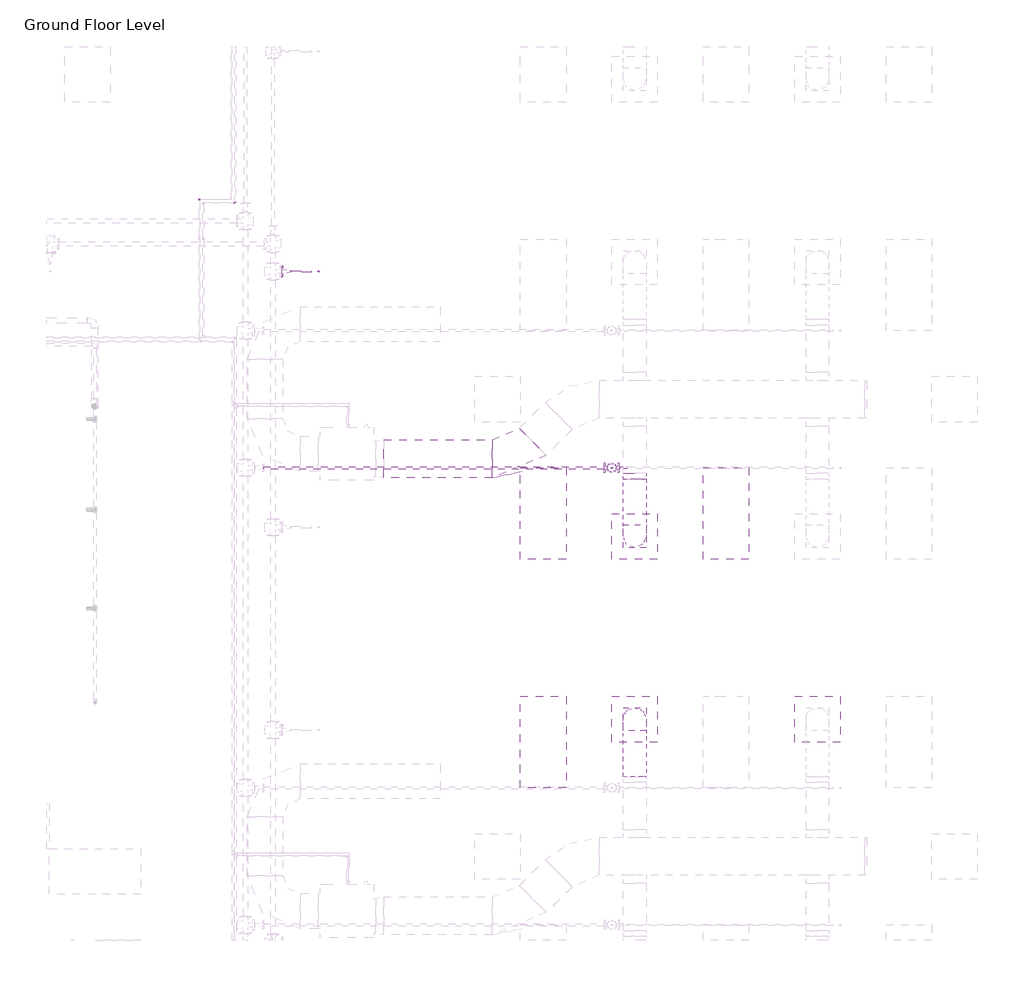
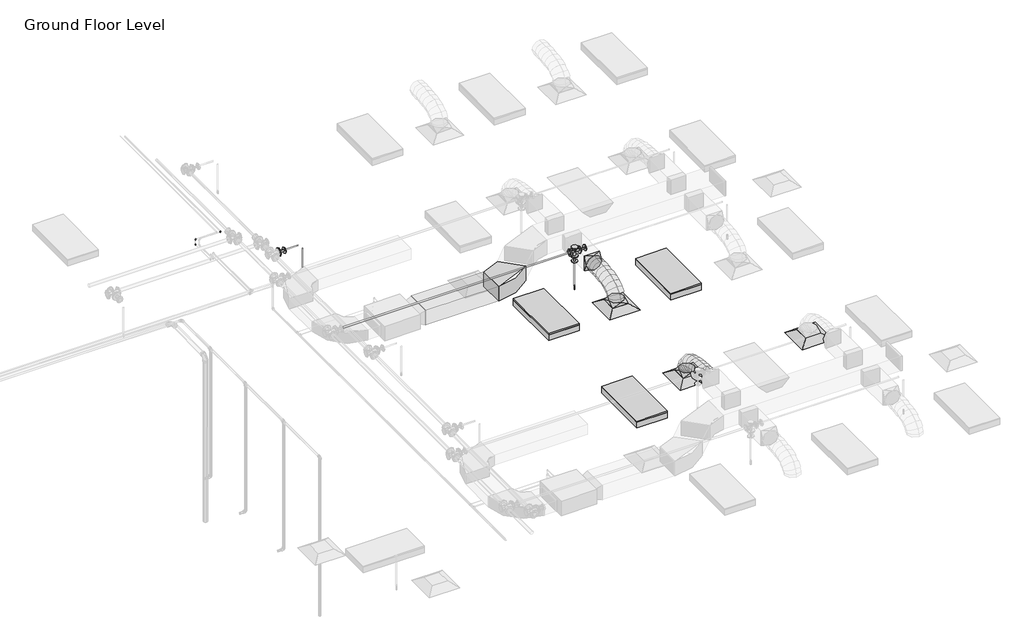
# One storey, part 67 of 72: 7 pipe fittings, 4 duct fittings, 4 pipe segments, 3 air terminals, 3 duct segments, 3 light fixtures, 2 fire suppression terminals.
"""IFC4 building model written with IfcOpenShell, lengths in millimetres."""

from ifc_helpers import new_model, si_unit, point, frame, frame_2d, origin, place, context, project, spatial, polyline, circle_curve, ellipse_curve, trimmed, segment, composite_curve, outline, extrude, transform, mapped, element, save
from ifc_brep_helpers import plane_surface, cylinder_surface, advanced_brep
from components import m_return_diffuser_600_x_600_face_300_x_300_connection_ff221211, m_rectangular_elbow_radius_1_5_w_acc56c25, m_rectangular_to_round_transition_angle_45_degree_641efff0, m_sprinkler_dry_pendent_hosted_15_mm_dry_pendent_9bda8e11, m_sprinkler_pendent_15_mm_pendent_06fcbd8e, m_troffer_light_parabolic_rectangular1_0600x1200mm_4_lamp_86473d4a, m_elbow_generic_standard_a088f956, m_elbow_generic_standard_2a704253, m_reducer_flanged_cs_class_150_standard_ccf252ad, m_reducer_flanged_cs_class_150_standard_9dfe9ec5, m_tee_round_base_flanged_cs_class_150_standard_7e5987a1

model = new_model("IFC4")

# Units and contexts
model_context = context("Model", 3, world=origin())
ifc_project = project(units=[si_unit("LENGTHUNIT", "METRE", prefix="MILLI")], contexts=[model_context])

# Site, building, storey
site = spatial("IfcSite", under=ifc_project)
building = spatial("IfcBuilding", under=site)
storey = spatial("IfcBuildingStorey", under=building, Name="Ground Floor Level", Elevation=900.0)

# Air terminals
placement = place(None, origin())
m_return_diffuser_600_x_600_face_300_x_300_connection_shape = m_return_diffuser_600_x_600_face_300_x_300_connection_ff221211(model_context)
element("IfcAirTerminal", 1, ObjectType="M_Supply Diffuser : 600 x 600 Face 300 x 300 Connection", at=placement, inside=storey, context=model_context, shape_type="MappedRepresentation", body=[
    mapped(m_return_diffuser_600_x_600_face_300_x_300_connection_shape, transform((10742.7672395, 10935.2153534, 3650.0), x_axis=(1.0, 0.0, 0.0), y_axis=(0.0, 1.0, 0.0), z_axis=(0.0, 0.0, 1.0))),
])
element("IfcAirTerminal", 2, ObjectType="M_Supply Diffuser : 600 x 600 Face 300 x 300 Connection", at=placement, inside=storey, context=model_context, shape_type="MappedRepresentation", body=[
    mapped(m_return_diffuser_600_x_600_face_300_x_300_connection_shape, transform((10742.7672395, 8535.2153534, 3650.0), x_axis=(1.0, 0.0, 0.0), y_axis=(0.0, 1.0, 0.0), z_axis=(0.0, 0.0, 1.0))),
])
element("IfcAirTerminal", 3, ObjectType="M_Supply Diffuser : 600 x 600 Face 300 x 300 Connection", at=placement, inside=storey, context=model_context, shape_type="MappedRepresentation", body=[
    mapped(m_return_diffuser_600_x_600_face_300_x_300_connection_shape, transform((13142.7672395, 8535.2153534, 3650.0), x_axis=(1.0, 0.0, 0.0), y_axis=(0.0, 1.0, 0.0), z_axis=(0.0, 0.0, 1.0))),
])

# Duct fittings
m_rectangular_elbow_radius_1_5_w_shape = m_rectangular_elbow_radius_1_5_w_acc56c25(model_context)
element("IfcDuctFitting", 4, ObjectType="M_Rectangular Elbow - Radius : 1.5 W", at=placement, inside=storey, context=model_context, shape_type="MappedRepresentation", body=[
    mapped(m_rectangular_elbow_radius_1_5_w_shape, transform((9187.6927358, 11956.1779527, 4100.0047224), x_axis=(0.9999999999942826, 0.0, -3.3815582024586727e-06), y_axis=(-9.063610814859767e-12, 0.9999999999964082, -2.680306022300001e-06), z_axis=(3.3815582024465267e-06, 2.6803060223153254e-06, 0.9999999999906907))),
])
m_rectangular_to_round_transition_angle_45_degree_shape = m_rectangular_to_round_transition_angle_45_degree_641efff0(model_context)
element("IfcDuctFitting", 5, ObjectType="M_Rectangular to Round Transition - Angle : 45 Degree", at=placement, inside=storey, context=model_context, shape_type="MappedRepresentation", body=[
    mapped(m_rectangular_to_round_transition_angle_45_degree_shape, transform((10742.7672395, 8535.2153534, 3751.6), x_axis=(0.0, 0.0, 1.0), y_axis=(-1.0, 0.0, 0.0), z_axis=(0.0, -1.0, 0.0))),
])
element("IfcDuctFitting", 6, ObjectType="M_Rectangular to Round Transition - Angle : 45 Degree", at=placement, inside=storey, context=model_context, shape_type="MappedRepresentation", body=[
    mapped(m_rectangular_to_round_transition_angle_45_degree_shape, transform((10742.7672395, 10935.2153534, 3751.6), x_axis=(0.0, 0.0, 1.0), y_axis=(-1.0, 0.0, 0.0), z_axis=(0.0, -1.0, 0.0))),
])
element("IfcDuctFitting", 7, ObjectType="M_Rectangular to Round Transition - Angle : 45 Degree", at=placement, inside=storey, context=model_context, shape_type="MappedRepresentation", body=[
    mapped(m_rectangular_to_round_transition_angle_45_degree_shape, transform((10742.7672395, 11762.5512847, 4100.0), x_axis=(0.0, -1.0, 0.0), y_axis=(1.0, 0.0, 0.0), z_axis=(0.0, 0.0, 1.0))),
])

# Duct segments
element("IfcDuctSegment", 8, ObjectType="Flex - Round", at=placement, inside=storey, context=model_context, shape_type="AdvancedBrep", body=[
    advanced_brep(
    [(10892.7672395, 8535.2153534, 3826.6), (10742.7672395, 8385.2153534, 3826.6), (10592.7672395, 8535.2153534, 3826.6), (10742.7672395, 8685.2153534, 3826.6), (10892.7672395, 8535.2153534, 3857.9377114), (10742.7672395, 8385.2153534, 3832.2944892), (10592.7672395, 8535.2153534, 3857.9377114), (10742.7672395, 8685.2153534, 3883.5809337), (10892.7672395, 8518.1994208, 3906.2505728), (10742.7672395, 8384.4614419, 3834.435049), (10592.7672395, 8518.1994208, 3906.2505728), (10742.7672395, 8651.9373998, 3978.0660967), (10892.7672395, 8471.0155405, 3968.7113131), (10742.7672395, 8366.8096412, 3857.8020236), (10592.7672395, 8471.0155405, 3968.7113131), (10742.7672395, 8575.2214397, 4079.6206026), (10892.7672395, 8399.4595883, 4016.0700639), (10742.7672395, 8330.5255327, 3881.8163788), (10592.7672395, 8399.4595883, 4016.0700639), (10742.7672395, 8468.3936439, 4150.3237489), (10892.7672395, 8309.3274403, 4050.4146682), (10742.7672395, 8265.7666771, 3906.4925606), (10592.7672395, 8309.3274403, 4050.4146682), (10742.7672395, 8352.8882035, 4194.3367758), (10892.7672395, 8206.4149725, 4073.8329691), (10742.7672395, 8179.8540485, 3926.0424542), (10592.7672395, 8206.4149725, 4073.8329691), (10742.7672395, 8232.9758965, 4221.6234841), (10892.7672395, 8096.5180607, 4088.4128097), (10742.7672395, 8081.3671584, 3939.1085462), (10592.7672395, 8096.5180607, 4088.4128097), (10742.7672395, 8111.6689631, 4237.7170733), (10892.7672395, 7985.4325811, 4096.242033), (10742.7672395, 7977.9272529, 3946.398915), (10592.7672395, 7985.4325811, 4096.242033), (10742.7672395, 7992.9379093, 4246.085151), (10892.7672395, 7878.9544096, 4099.4084821), (10742.7672395, 7876.2629165, 3949.4222102), (10592.7672395, 7878.9544096, 4099.4084821), (10742.7672395, 7881.6459027, 4249.394754), (10892.7672395, 7782.8794221, 4100.0), (10742.7672395, 7783.8029299, 4249.9971571), (10592.7672395, 7782.8794221, 4100.0), (10742.7672395, 7781.9559143, 3950.0028429)],
    [
        (0, 1, circle_curve(frame((10742.7672395, 8535.2153534, 3826.6), z_axis=(0.0, 0.0, -1.0), x_axis=(1.0, 0.0, 0.0)), 150.0)),
        (1, 2, circle_curve(frame((10742.7672395, 8535.2153534, 3826.6), z_axis=(0.0, 0.0, -1.0), x_axis=(1.0, 0.0, 0.0)), 150.0)),
        (2, 3, circle_curve(frame((10742.7672395, 8535.2153534, 3826.6), z_axis=(0.0, 0.0, -1.0), x_axis=(1.0, 0.0, 0.0)), 150.0)),
        (3, 0, circle_curve(frame((10742.7672395, 8535.2153534, 3826.6), z_axis=(0.0, 0.0, -1.0), x_axis=(1.0, 0.0, 0.0)), 150.0)),
        (0, 4),
        (4, 5, ellipse_curve(frame((10742.7672395, 8535.2153534, 3857.9377114), z_axis=(0.0, 0.16851014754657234, -0.9856999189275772), x_axis=(0.0, -0.9856999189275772, -0.1685101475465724)), 152.176131, 150.0)),
        (5, 1),
        (5, 6, ellipse_curve(frame((10742.7672395, 8535.2153534, 3857.9377114), z_axis=(0.0, 0.16851014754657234, -0.9856999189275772), x_axis=(0.0, -0.9856999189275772, -0.1685101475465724)), 152.176131, 150.0)),
        (6, 2),
        (6, 7, ellipse_curve(frame((10742.7672395, 8535.2153534, 3857.9377114), z_axis=(0.0, 0.16851014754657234, -0.9856999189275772), x_axis=(0.0, -0.9856999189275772, -0.1685101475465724)), 152.176131, 150.0)),
        (7, 3),
        (7, 4, ellipse_curve(frame((10742.7672395, 8535.2153534, 3857.9377114), z_axis=(0.0, 0.16851014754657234, -0.9856999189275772), x_axis=(0.0, -0.9856999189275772, -0.1685101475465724)), 152.176131, 150.0)),
        (4, 8),
        (8, 9, ellipse_curve(frame((10742.7672395, 8518.1994208, 3906.2505728), z_axis=(0.0, 0.4730922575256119, -0.8810128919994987), x_axis=(0.0, -0.8810128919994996, -0.47309225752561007)), 151.8002519, 150.0)),
        (9, 5),
        (9, 10, ellipse_curve(frame((10742.7672395, 8518.1994208, 3906.2505728), z_axis=(0.0, 0.4730922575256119, -0.8810128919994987), x_axis=(0.0, -0.8810128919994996, -0.47309225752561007)), 151.8002519, 150.0)),
        (10, 6),
        (10, 11, ellipse_curve(frame((10742.7672395, 8518.1994208, 3906.2505728), z_axis=(0.0, 0.4730922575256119, -0.8810128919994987), x_axis=(0.0, -0.8810128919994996, -0.47309225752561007)), 151.8002519, 150.0)),
        (11, 7),
        (11, 8, ellipse_curve(frame((10742.7672395, 8518.1994208, 3906.2505728), z_axis=(0.0, 0.4730922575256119, -0.8810128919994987), x_axis=(0.0, -0.8810128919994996, -0.47309225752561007)), 151.8002519, 150.0)),
        (8, 12),
        (12, 13, ellipse_curve(frame((10742.7672395, 8471.0155405, 3968.7113131), z_axis=(0.0, 0.7287877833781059, -0.6847396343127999), x_axis=(0.0, -0.6847396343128, -0.7287877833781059)), 152.1832446, 150.0)),
        (13, 9),
        (13, 14, ellipse_curve(frame((10742.7672395, 8471.0155405, 3968.7113131), z_axis=(0.0, 0.7287877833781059, -0.6847396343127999), x_axis=(0.0, -0.6847396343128, -0.7287877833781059)), 152.1832446, 150.0)),
        (14, 10),
        (14, 15, ellipse_curve(frame((10742.7672395, 8471.0155405, 3968.7113131), z_axis=(0.0, 0.7287877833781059, -0.6847396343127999), x_axis=(0.0, -0.6847396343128, -0.7287877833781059)), 152.1832446, 150.0)),
        (15, 11),
        (15, 12, ellipse_curve(frame((10742.7672395, 8471.0155405, 3968.7113131), z_axis=(0.0, 0.7287877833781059, -0.6847396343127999), x_axis=(0.0, -0.6847396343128, -0.7287877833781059)), 152.1832446, 150.0)),
        (12, 16),
        (16, 17, ellipse_curve(frame((10742.7672395, 8399.4595883, 4016.0700639), z_axis=(0.0, 0.8895859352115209, -0.4567678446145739), x_axis=(0.0, -0.4567678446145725, -0.8895859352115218)), 150.91705, 150.0)),
        (17, 13),
        (17, 18, ellipse_curve(frame((10742.7672395, 8399.4595883, 4016.0700639), z_axis=(0.0, 0.8895859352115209, -0.4567678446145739), x_axis=(0.0, -0.4567678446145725, -0.8895859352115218)), 150.91705, 150.0)),
        (18, 14),
        (18, 19, ellipse_curve(frame((10742.7672395, 8399.4595883, 4016.0700639), z_axis=(0.0, 0.8895859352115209, -0.4567678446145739), x_axis=(0.0, -0.4567678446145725, -0.8895859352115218)), 150.91705, 150.0)),
        (19, 15),
        (19, 16, ellipse_curve(frame((10742.7672395, 8399.4595883, 4016.0700639), z_axis=(0.0, 0.8895859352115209, -0.4567678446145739), x_axis=(0.0, -0.4567678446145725, -0.8895859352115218)), 150.91705, 150.0)),
        (16, 20),
        (20, 21, ellipse_curve(frame((10742.7672395, 8309.3274403, 4050.4146682), z_axis=(0.0, 0.9571203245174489, -0.2896906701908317), x_axis=(0.0, -0.2896906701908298, -0.9571203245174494)), 150.369921, 150.0)),
        (21, 17),
        (21, 22, ellipse_curve(frame((10742.7672395, 8309.3274403, 4050.4146682), z_axis=(0.0, 0.9571203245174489, -0.2896906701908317), x_axis=(0.0, -0.2896906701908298, -0.9571203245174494)), 150.369921, 150.0)),
        (22, 18),
        (22, 23, ellipse_curve(frame((10742.7672395, 8309.3274403, 4050.4146682), z_axis=(0.0, 0.9571203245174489, -0.2896906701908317), x_axis=(0.0, -0.2896906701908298, -0.9571203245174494)), 150.369921, 150.0)),
        (23, 19),
        (23, 20, ellipse_curve(frame((10742.7672395, 8309.3274403, 4050.4146682), z_axis=(0.0, 0.9571203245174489, -0.2896906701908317), x_axis=(0.0, -0.2896906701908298, -0.9571203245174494)), 150.369921, 150.0)),
        (20, 24),
        (24, 25, ellipse_curve(frame((10742.7672395, 8206.4149725, 4073.8329691), z_axis=(0.0, 0.9842313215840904, -0.1768861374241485), x_axis=(0.0, -0.17688613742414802, -0.9842313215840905)), 150.1583131, 150.0)),
        (25, 21),
        (25, 26, ellipse_curve(frame((10742.7672395, 8206.4149725, 4073.8329691), z_axis=(0.0, 0.9842313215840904, -0.1768861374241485), x_axis=(0.0, -0.17688613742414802, -0.9842313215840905)), 150.1583131, 150.0)),
        (26, 22),
        (26, 27, ellipse_curve(frame((10742.7672395, 8206.4149725, 4073.8329691), z_axis=(0.0, 0.9842313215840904, -0.1768861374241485), x_axis=(0.0, -0.17688613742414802, -0.9842313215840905)), 150.1583131, 150.0)),
        (27, 23),
        (27, 24, ellipse_curve(frame((10742.7672395, 8206.4149725, 4073.8329691), z_axis=(0.0, 0.9842313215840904, -0.1768861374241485), x_axis=(0.0, -0.17688613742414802, -0.9842313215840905)), 150.1583131, 150.0)),
        (24, 28),
        (28, 29, ellipse_curve(frame((10742.7672395, 8096.5180607, 4088.4128097), z_axis=(0.0, 0.9948906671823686, -0.10095821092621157), x_axis=(0.0, -0.100958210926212, -0.9948906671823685)), 150.0710264, 150.0)),
        (29, 25),
        (29, 30, ellipse_curve(frame((10742.7672395, 8096.5180607, 4088.4128097), z_axis=(0.0, 0.9948906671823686, -0.10095821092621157), x_axis=(0.0, -0.100958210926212, -0.9948906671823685)), 150.0710264, 150.0)),
        (30, 26),
        (30, 31, ellipse_curve(frame((10742.7672395, 8096.5180607, 4088.4128097), z_axis=(0.0, 0.9948906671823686, -0.10095821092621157), x_axis=(0.0, -0.100958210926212, -0.9948906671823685)), 150.0710264, 150.0)),
        (31, 27),
        (31, 28, ellipse_curve(frame((10742.7672395, 8096.5180607, 4088.4128097), z_axis=(0.0, 0.9948906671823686, -0.10095821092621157), x_axis=(0.0, -0.100958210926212, -0.9948906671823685)), 150.0710264, 150.0)),
        (28, 32),
        (32, 33, ellipse_curve(frame((10742.7672395, 7985.4325811, 4096.242033), z_axis=(0.0, 0.9987479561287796, -0.05002519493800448), x_axis=(0.0, -0.050025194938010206, -0.9987479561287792)), 150.0309634, 150.0)),
        (33, 29),
        (33, 34, ellipse_curve(frame((10742.7672395, 7985.4325811, 4096.242033), z_axis=(0.0, 0.9987479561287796, -0.05002519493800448), x_axis=(0.0, -0.050025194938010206, -0.9987479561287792)), 150.0309634, 150.0)),
        (34, 30),
        (34, 35, ellipse_curve(frame((10742.7672395, 7985.4325811, 4096.242033), z_axis=(0.0, 0.9987479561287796, -0.05002519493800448), x_axis=(0.0, -0.050025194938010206, -0.9987479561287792)), 150.0309634, 150.0)),
        (35, 31),
        (35, 32, ellipse_curve(frame((10742.7672395, 7985.4325811, 4096.242033), z_axis=(0.0, 0.9987479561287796, -0.05002519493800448), x_axis=(0.0, -0.050025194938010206, -0.9987479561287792)), 150.0309634, 150.0)),
        (32, 36),
        (36, 37, ellipse_curve(frame((10742.7672395, 7878.9544096, 4099.4084821), z_axis=(0.0, 0.9998390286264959, -0.017942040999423), x_axis=(0.0, -0.01794204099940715, -0.9998390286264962)), 150.0104193, 150.0)),
        (37, 33),
        (37, 38, ellipse_curve(frame((10742.7672395, 7878.9544096, 4099.4084821), z_axis=(0.0, 0.9998390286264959, -0.017942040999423), x_axis=(0.0, -0.01794204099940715, -0.9998390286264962)), 150.0104193, 150.0)),
        (38, 34),
        (38, 39, ellipse_curve(frame((10742.7672395, 7878.9544096, 4099.4084821), z_axis=(0.0, 0.9998390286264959, -0.017942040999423), x_axis=(0.0, -0.01794204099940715, -0.9998390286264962)), 150.0104193, 150.0)),
        (39, 35),
        (39, 36, ellipse_curve(frame((10742.7672395, 7878.9544096, 4099.4084821), z_axis=(0.0, 0.9998390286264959, -0.017942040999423), x_axis=(0.0, -0.01794204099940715, -0.9998390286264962)), 150.0104193, 150.0)),
        (40, 41, circle_curve(frame((10742.7672395, 7782.8794221, 4100.0), z_axis=(0.0, -0.9999810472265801, 0.006156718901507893), x_axis=(1.0, 0.0, 0.0)), 150.0)),
        (41, 42, circle_curve(frame((10742.7672395, 7782.8794221, 4100.0), z_axis=(0.0, -0.9999810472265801, 0.006156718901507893), x_axis=(1.0, 0.0, 0.0)), 150.0)),
        (42, 43, circle_curve(frame((10742.7672395, 7782.8794221, 4100.0), z_axis=(0.0, -0.9999810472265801, 0.006156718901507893), x_axis=(1.0, 0.0, 0.0)), 150.0)),
        (43, 40, circle_curve(frame((10742.7672395, 7782.8794221, 4100.0), z_axis=(0.0, -0.9999810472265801, 0.006156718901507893), x_axis=(1.0, 0.0, 0.0)), 150.0)),
        (36, 40),
        (43, 37),
        (42, 38),
        (41, 39),
    ],
    [
        plane_surface(frame((10742.7672395, 8385.2153534, 3826.6), z_axis=(0.0, 0.0, -1.0), x_axis=(1.0, 0.0, 0.0))),
        cylinder_surface(frame((10742.7672395, 8535.2153534, 3826.6), z_axis=(0.0, 0.0, -1.0), x_axis=(1.0, 0.0, 0.0)), 150.0),
        cylinder_surface(frame((10742.7672395, 8535.2153534, 3857.9377114), z_axis=(0.0, 0.3322008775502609, -0.9432086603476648), x_axis=(1.0, 0.0, 0.0)), 150.0),
        cylinder_surface(frame((10742.7672395, 8518.1994208, 3906.2505728), z_axis=(0.0, 0.6027625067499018, -0.7979206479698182), x_axis=(1.0, 0.0, 0.0)), 150.0),
        cylinder_surface(frame((10742.7672395, 8471.0155405, 3968.7113131), z_axis=(0.0, 0.8339024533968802, -0.5519118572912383), x_axis=(1.0, 0.0, 0.0)), 150.0),
        cylinder_surface(frame((10742.7672395, 8399.4595883, 4016.0700639), z_axis=(0.0, 0.934458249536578, -0.35607271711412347), x_axis=(1.0, 0.0, 0.0)), 150.0),
        cylinder_surface(frame((10742.7672395, 8309.3274403, 4050.4146682), z_axis=(0.0, 0.9750732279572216, -0.2218833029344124), x_axis=(1.0, 0.0, 0.0)), 150.0),
        cylinder_surface(frame((10742.7672395, 8206.4149725, 4073.8329691), z_axis=(0.0, 0.9913140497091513, -0.13151598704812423), x_axis=(1.0, 0.0, 0.0)), 150.0),
        cylinder_surface(frame((10742.7672395, 8096.5180607, 4088.4128097), z_axis=(0.0, 0.9975255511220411, -0.07030487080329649), x_axis=(1.0, 0.0, 0.0)), 150.0),
        cylinder_surface(frame((10742.7672395, 7985.4325811, 4096.242033), z_axis=(0.0, 0.9995581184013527, -0.029724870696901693), x_axis=(1.0, 0.0, 0.0)), 150.0),
        plane_surface(frame((10742.7672395, 7781.9559143, 3950.0028429), z_axis=(0.0, -0.9999810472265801, 0.0061567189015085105), x_axis=(1.0, 0.0, 0.0))),
        cylinder_surface(frame((10742.7672395, 7878.9544096, 4099.4084821), z_axis=(0.0, 0.9999810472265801, -0.006156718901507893), x_axis=(1.0, 0.0, 0.0)), 150.0),
    ],
    [
        (0, [[1, 2, 3, 4]]),
        (1, [[-1, 5, 6, 7]]),
        (1, [[-2, -7, 8, 9]]),
        (1, [[-3, -9, 10, 11]]),
        (1, [[-4, -11, 12, -5]]),
        (2, [[-6, 13, 14, 15]]),
        (2, [[-8, -15, 16, 17]]),
        (2, [[-10, -17, 18, 19]]),
        (2, [[-12, -19, 20, -13]]),
        (3, [[-14, 21, 22, 23]]),
        (3, [[-16, -23, 24, 25]]),
        (3, [[-18, -25, 26, 27]]),
        (3, [[-20, -27, 28, -21]]),
        (4, [[-22, 29, 30, 31]]),
        (4, [[-24, -31, 32, 33]]),
        (4, [[-26, -33, 34, 35]]),
        (4, [[-28, -35, 36, -29]]),
        (5, [[-30, 37, 38, 39]]),
        (5, [[-32, -39, 40, 41]]),
        (5, [[-34, -41, 42, 43]]),
        (5, [[-36, -43, 44, -37]]),
        (6, [[-38, 45, 46, 47]]),
        (6, [[-40, -47, 48, 49]]),
        (6, [[-42, -49, 50, 51]]),
        (6, [[-44, -51, 52, -45]]),
        (7, [[-46, 53, 54, 55]]),
        (7, [[-48, -55, 56, 57]]),
        (7, [[-50, -57, 58, 59]]),
        (7, [[-52, -59, 60, -53]]),
        (8, [[-54, 61, 62, 63]]),
        (8, [[-56, -63, 64, 65]]),
        (8, [[-58, -65, 66, 67]]),
        (8, [[-60, -67, 68, -61]]),
        (9, [[-62, 69, 70, 71]]),
        (9, [[-64, -71, 72, 73]]),
        (9, [[-66, -73, 74, 75]]),
        (9, [[-68, -75, 76, -69]]),
        (10, [[77, 78, 79, 80]]),
        (11, [[-70, 81, -80, 82]]),
        (11, [[-72, -82, -79, 83]]),
        (11, [[-74, -83, -78, 84]]),
        (11, [[-76, -84, -77, -81]]),
    ],
),
])
element("IfcDuctSegment", 9, ObjectType="Flex - Round", at=placement, inside=storey, context=model_context, shape_type="AdvancedBrep", body=[
    advanced_brep(
    [(10892.7672395, 10935.2153534, 3826.6), (10742.7672395, 10785.2153534, 3826.6), (10592.7672395, 10935.2153534, 3826.6), (10742.7672395, 11085.2153534, 3826.6), (10892.7672395, 10935.2153534, 3857.9377114), (10742.7672395, 10785.2153534, 3883.5809337), (10592.7672395, 10935.2153534, 3857.9377114), (10742.7672395, 11085.2153534, 3832.2944892), (10892.7672395, 10952.2312859, 3906.2505728), (10742.7672395, 10818.493307, 3978.0660967), (10592.7672395, 10952.2312859, 3906.2505728), (10742.7672395, 11085.9692649, 3834.435049), (10892.7672395, 10999.4151663, 3968.7113131), (10742.7672395, 10895.209267, 4079.6206026), (10592.7672395, 10999.4151663, 3968.7113131), (10742.7672395, 11103.6210655, 3857.8020236), (10892.7672395, 11070.9711184, 4016.0700639), (10742.7672395, 11002.0370628, 4150.3237489), (10592.7672395, 11070.9711184, 4016.0700639), (10742.7672395, 11139.9051741, 3881.8163788), (10892.7672395, 11161.1032664, 4050.4146682), (10742.7672395, 11117.5425033, 4194.3367758), (10592.7672395, 11161.1032664, 4050.4146682), (10742.7672395, 11204.6640296, 3906.4925606), (10892.7672395, 11264.0157343, 4073.8329691), (10742.7672395, 11237.4548103, 4221.6234841), (10592.7672395, 11264.0157343, 4073.8329691), (10742.7672395, 11290.5766583, 3926.0424542), (10892.7672395, 11373.912646, 4088.4128097), (10742.7672395, 11358.7617437, 4237.7170733), (10592.7672395, 11373.912646, 4088.4128097), (10742.7672395, 11389.0635483, 3939.1085462), (10892.7672395, 11484.9981256, 4096.242033), (10742.7672395, 11477.4927975, 4246.085151), (10592.7672395, 11484.9981256, 4096.242033), (10742.7672395, 11492.5034538, 3946.398915), (10892.7672395, 11591.4762972, 4099.4084821), (10742.7672395, 11588.7848041, 4249.394754), (10592.7672395, 11591.4762972, 4099.4084821), (10742.7672395, 11594.1677903, 3949.4222102), (10892.7672395, 11687.5512847, 4100.0), (10742.7672395, 11688.4747925, 3950.0028429), (10592.7672395, 11687.5512847, 4100.0), (10742.7672395, 11686.6277768, 4249.9971571)],
    [
        (0, 1, circle_curve(frame((10742.7672395, 10935.2153534, 3826.6), z_axis=(0.0, 0.0, -1.0), x_axis=(1.0, 0.0, 0.0)), 150.0)),
        (1, 2, circle_curve(frame((10742.7672395, 10935.2153534, 3826.6), z_axis=(0.0, 0.0, -1.0), x_axis=(1.0, 0.0, 0.0)), 150.0)),
        (2, 3, circle_curve(frame((10742.7672395, 10935.2153534, 3826.6), z_axis=(0.0, 0.0, -1.0), x_axis=(1.0, 0.0, 0.0)), 150.0)),
        (3, 0, circle_curve(frame((10742.7672395, 10935.2153534, 3826.6), z_axis=(0.0, 0.0, -1.0), x_axis=(1.0, 0.0, 0.0)), 150.0)),
        (0, 4),
        (4, 5, ellipse_curve(frame((10742.7672395, 10935.2153534, 3857.9377114), z_axis=(0.0, -0.16851014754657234, -0.9856999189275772), x_axis=(0.0, 0.9856999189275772, -0.1685101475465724)), 152.176131, 150.0)),
        (5, 1),
        (5, 6, ellipse_curve(frame((10742.7672395, 10935.2153534, 3857.9377114), z_axis=(0.0, -0.16851014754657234, -0.9856999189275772), x_axis=(0.0, 0.9856999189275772, -0.1685101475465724)), 152.176131, 150.0)),
        (6, 2),
        (6, 7, ellipse_curve(frame((10742.7672395, 10935.2153534, 3857.9377114), z_axis=(0.0, -0.16851014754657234, -0.9856999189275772), x_axis=(0.0, 0.9856999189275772, -0.1685101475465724)), 152.176131, 150.0)),
        (7, 3),
        (7, 4, ellipse_curve(frame((10742.7672395, 10935.2153534, 3857.9377114), z_axis=(0.0, -0.16851014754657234, -0.9856999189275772), x_axis=(0.0, 0.9856999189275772, -0.1685101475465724)), 152.176131, 150.0)),
        (4, 8),
        (8, 9, ellipse_curve(frame((10742.7672395, 10952.2312859, 3906.2505728), z_axis=(0.0, -0.47309225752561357, -0.8810128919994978), x_axis=(0.0, 0.8810128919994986, -0.47309225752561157)), 151.8002519, 150.0)),
        (9, 5),
        (9, 10, ellipse_curve(frame((10742.7672395, 10952.2312859, 3906.2505728), z_axis=(0.0, -0.47309225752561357, -0.8810128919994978), x_axis=(0.0, 0.8810128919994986, -0.47309225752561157)), 151.8002519, 150.0)),
        (10, 6),
        (10, 11, ellipse_curve(frame((10742.7672395, 10952.2312859, 3906.2505728), z_axis=(0.0, -0.47309225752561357, -0.8810128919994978), x_axis=(0.0, 0.8810128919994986, -0.47309225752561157)), 151.8002519, 150.0)),
        (11, 7),
        (11, 8, ellipse_curve(frame((10742.7672395, 10952.2312859, 3906.2505728), z_axis=(0.0, -0.47309225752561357, -0.8810128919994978), x_axis=(0.0, 0.8810128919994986, -0.47309225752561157)), 151.8002519, 150.0)),
        (8, 12),
        (12, 13, ellipse_curve(frame((10742.7672395, 10999.4151663, 3968.7113131), z_axis=(0.0, -0.7287877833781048, -0.6847396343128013), x_axis=(0.0, 0.6847396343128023, -0.7287877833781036)), 152.1832446, 150.0)),
        (13, 9),
        (13, 14, ellipse_curve(frame((10742.7672395, 10999.4151663, 3968.7113131), z_axis=(0.0, -0.7287877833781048, -0.6847396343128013), x_axis=(0.0, 0.6847396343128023, -0.7287877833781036)), 152.1832446, 150.0)),
        (14, 10),
        (14, 15, ellipse_curve(frame((10742.7672395, 10999.4151663, 3968.7113131), z_axis=(0.0, -0.7287877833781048, -0.6847396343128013), x_axis=(0.0, 0.6847396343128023, -0.7287877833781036)), 152.1832446, 150.0)),
        (15, 11),
        (15, 12, ellipse_curve(frame((10742.7672395, 10999.4151663, 3968.7113131), z_axis=(0.0, -0.7287877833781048, -0.6847396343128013), x_axis=(0.0, 0.6847396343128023, -0.7287877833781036)), 152.1832446, 150.0)),
        (12, 16),
        (16, 17, ellipse_curve(frame((10742.7672395, 11070.9711184, 4016.0700639), z_axis=(0.0, -0.8895859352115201, -0.45676784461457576), x_axis=(0.0, 0.45676784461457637, -0.8895859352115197)), 150.91705, 150.0)),
        (17, 13),
        (17, 18, ellipse_curve(frame((10742.7672395, 11070.9711184, 4016.0700639), z_axis=(0.0, -0.8895859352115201, -0.45676784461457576), x_axis=(0.0, 0.45676784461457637, -0.8895859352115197)), 150.91705, 150.0)),
        (18, 14),
        (18, 19, ellipse_curve(frame((10742.7672395, 11070.9711184, 4016.0700639), z_axis=(0.0, -0.8895859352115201, -0.45676784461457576), x_axis=(0.0, 0.45676784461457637, -0.8895859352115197)), 150.91705, 150.0)),
        (19, 15),
        (19, 16, ellipse_curve(frame((10742.7672395, 11070.9711184, 4016.0700639), z_axis=(0.0, -0.8895859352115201, -0.45676784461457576), x_axis=(0.0, 0.45676784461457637, -0.8895859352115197)), 150.91705, 150.0)),
        (16, 20),
        (20, 21, ellipse_curve(frame((10742.7672395, 11161.1032664, 4050.4146682), z_axis=(0.0, -0.9571203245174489, -0.2896906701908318), x_axis=(0.0, 0.28969067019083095, -0.9571203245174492)), 150.369921, 150.0)),
        (21, 17),
        (21, 22, ellipse_curve(frame((10742.7672395, 11161.1032664, 4050.4146682), z_axis=(0.0, -0.9571203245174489, -0.2896906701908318), x_axis=(0.0, 0.28969067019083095, -0.9571203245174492)), 150.369921, 150.0)),
        (22, 18),
        (22, 23, ellipse_curve(frame((10742.7672395, 11161.1032664, 4050.4146682), z_axis=(0.0, -0.9571203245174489, -0.2896906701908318), x_axis=(0.0, 0.28969067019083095, -0.9571203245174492)), 150.369921, 150.0)),
        (23, 19),
        (23, 20, ellipse_curve(frame((10742.7672395, 11161.1032664, 4050.4146682), z_axis=(0.0, -0.9571203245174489, -0.2896906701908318), x_axis=(0.0, 0.28969067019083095, -0.9571203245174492)), 150.369921, 150.0)),
        (20, 24),
        (24, 25, ellipse_curve(frame((10742.7672395, 11264.0157343, 4073.8329691), z_axis=(0.0, -0.9842313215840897, -0.17688613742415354), x_axis=(0.0, 0.1768861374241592, -0.9842313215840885)), 150.1583131, 150.0)),
        (25, 21),
        (25, 26, ellipse_curve(frame((10742.7672395, 11264.0157343, 4073.8329691), z_axis=(0.0, -0.9842313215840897, -0.17688613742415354), x_axis=(0.0, 0.1768861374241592, -0.9842313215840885)), 150.1583131, 150.0)),
        (26, 22),
        (26, 27, ellipse_curve(frame((10742.7672395, 11264.0157343, 4073.8329691), z_axis=(0.0, -0.9842313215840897, -0.17688613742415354), x_axis=(0.0, 0.1768861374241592, -0.9842313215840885)), 150.1583131, 150.0)),
        (27, 23),
        (27, 24, ellipse_curve(frame((10742.7672395, 11264.0157343, 4073.8329691), z_axis=(0.0, -0.9842313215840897, -0.17688613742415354), x_axis=(0.0, 0.1768861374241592, -0.9842313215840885)), 150.1583131, 150.0)),
        (24, 28),
        (28, 29, ellipse_curve(frame((10742.7672395, 11373.912646, 4088.4128097), z_axis=(0.0, -0.9948906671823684, -0.10095821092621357), x_axis=(0.0, 0.10095821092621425, -0.9948906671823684)), 150.0710264, 150.0)),
        (29, 25),
        (29, 30, ellipse_curve(frame((10742.7672395, 11373.912646, 4088.4128097), z_axis=(0.0, -0.9948906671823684, -0.10095821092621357), x_axis=(0.0, 0.10095821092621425, -0.9948906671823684)), 150.0710264, 150.0)),
        (30, 26),
        (30, 31, ellipse_curve(frame((10742.7672395, 11373.912646, 4088.4128097), z_axis=(0.0, -0.9948906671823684, -0.10095821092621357), x_axis=(0.0, 0.10095821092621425, -0.9948906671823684)), 150.0710264, 150.0)),
        (31, 27),
        (31, 28, ellipse_curve(frame((10742.7672395, 11373.912646, 4088.4128097), z_axis=(0.0, -0.9948906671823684, -0.10095821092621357), x_axis=(0.0, 0.10095821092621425, -0.9948906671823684)), 150.0710264, 150.0)),
        (28, 32),
        (32, 33, ellipse_curve(frame((10742.7672395, 11484.9981256, 4096.242033), z_axis=(0.0, -0.9987479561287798, -0.05002519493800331), x_axis=(0.0, 0.050025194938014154, -0.9987479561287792)), 150.0309634, 150.0)),
        (33, 29),
        (33, 34, ellipse_curve(frame((10742.7672395, 11484.9981256, 4096.242033), z_axis=(0.0, -0.9987479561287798, -0.05002519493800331), x_axis=(0.0, 0.050025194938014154, -0.9987479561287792)), 150.0309634, 150.0)),
        (34, 30),
        (34, 35, ellipse_curve(frame((10742.7672395, 11484.9981256, 4096.242033), z_axis=(0.0, -0.9987479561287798, -0.05002519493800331), x_axis=(0.0, 0.050025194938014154, -0.9987479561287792)), 150.0309634, 150.0)),
        (35, 31),
        (35, 32, ellipse_curve(frame((10742.7672395, 11484.9981256, 4096.242033), z_axis=(0.0, -0.9987479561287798, -0.05002519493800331), x_axis=(0.0, 0.050025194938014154, -0.9987479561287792)), 150.0309634, 150.0)),
        (32, 36),
        (36, 37, ellipse_curve(frame((10742.7672395, 11591.4762972, 4099.4084821), z_axis=(0.0, -0.9998390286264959, -0.01794204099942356), x_axis=(-1.8187895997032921e-12, 0.017942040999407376, -0.9998390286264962)), 150.0104193, 150.0)),
        (37, 33),
        (37, 38, ellipse_curve(frame((10742.7672395, 11591.4762972, 4099.4084821), z_axis=(0.0, -0.9998390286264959, -0.01794204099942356), x_axis=(-1.8187895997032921e-12, 0.017942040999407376, -0.9998390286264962)), 150.0104193, 150.0)),
        (38, 34),
        (38, 39, ellipse_curve(frame((10742.7672395, 11591.4762972, 4099.4084821), z_axis=(0.0, -0.9998390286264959, -0.01794204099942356), x_axis=(-1.8187895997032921e-12, 0.017942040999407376, -0.9998390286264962)), 150.0104193, 150.0)),
        (39, 35),
        (39, 36, ellipse_curve(frame((10742.7672395, 11591.4762972, 4099.4084821), z_axis=(0.0, -0.9998390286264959, -0.01794204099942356), x_axis=(-1.8187895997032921e-12, 0.017942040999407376, -0.9998390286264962)), 150.0104193, 150.0)),
        (40, 41, circle_curve(frame((10742.7672395, 11687.5512847, 4100.0), z_axis=(0.0, 0.9999810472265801, 0.006156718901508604), x_axis=(1.0, 0.0, 0.0)), 150.0)),
        (41, 42, circle_curve(frame((10742.7672395, 11687.5512847, 4100.0), z_axis=(0.0, 0.9999810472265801, 0.006156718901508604), x_axis=(1.0, 0.0, 0.0)), 150.0)),
        (42, 43, circle_curve(frame((10742.7672395, 11687.5512847, 4100.0), z_axis=(0.0, 0.9999810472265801, 0.006156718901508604), x_axis=(1.0, 0.0, 0.0)), 150.0)),
        (43, 40, circle_curve(frame((10742.7672395, 11687.5512847, 4100.0), z_axis=(0.0, 0.9999810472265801, 0.006156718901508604), x_axis=(1.0, 0.0, 0.0)), 150.0)),
        (36, 40),
        (43, 37),
        (42, 38),
        (41, 39),
    ],
    [
        plane_surface(frame((10742.7672395, 10785.2153534, 3826.6), z_axis=(0.0, 0.0, -1.0), x_axis=(1.0, 0.0, 0.0))),
        cylinder_surface(frame((10742.7672395, 10935.2153534, 3826.6), z_axis=(0.0, 0.0, -1.0), x_axis=(1.0, 0.0, 0.0)), 150.0),
        cylinder_surface(frame((10742.7672395, 10935.2153534, 3857.9377114), z_axis=(0.0, -0.3322008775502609, -0.9432086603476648), x_axis=(1.0, 0.0, 0.0)), 150.0),
        cylinder_surface(frame((10742.7672395, 10952.2312859, 3906.2505728), z_axis=(0.0, -0.6027625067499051, -0.7979206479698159), x_axis=(1.0, 0.0, 0.0)), 150.0),
        cylinder_surface(frame((10742.7672395, 10999.4151663, 3968.7113131), z_axis=(0.0, -0.833902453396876, -0.5519118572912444), x_axis=(1.0, 0.0, 0.0)), 150.0),
        cylinder_surface(frame((10742.7672395, 11070.9711184, 4016.0700639), z_axis=(0.0, -0.9344582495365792, -0.35607271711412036), x_axis=(1.0, 0.0, 0.0)), 150.0),
        cylinder_surface(frame((10742.7672395, 11161.1032664, 4050.4146682), z_axis=(0.0, -0.9750732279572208, -0.22188330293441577), x_axis=(1.0, 0.0, 0.0)), 150.0),
        cylinder_surface(frame((10742.7672395, 11264.0157343, 4073.8329691), z_axis=(0.0, -0.9913140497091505, -0.131515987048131), x_axis=(1.0, 0.0, 0.0)), 150.0),
        cylinder_surface(frame((10742.7672395, 11373.912646, 4088.4128097), z_axis=(0.0, -0.9975255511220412, -0.07030487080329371), x_axis=(1.0, 0.0, 0.0)), 150.0),
        cylinder_surface(frame((10742.7672395, 11484.9981256, 4096.242033), z_axis=(0.0, -0.9995581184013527, -0.029724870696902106), x_axis=(1.0, 0.0, 0.0)), 150.0),
        plane_surface(frame((10742.7672395, 11686.6277768, 4249.9971571), z_axis=(0.0, 0.9999810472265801, 0.0061567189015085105), x_axis=(1.0, 0.0, 0.0))),
        cylinder_surface(frame((10742.7672395, 11591.4762972, 4099.4084821), z_axis=(0.0, -0.9999810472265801, -0.006156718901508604), x_axis=(1.0, 0.0, 0.0)), 150.0),
    ],
    [
        (0, [[1, 2, 3, 4]]),
        (1, [[-1, 5, 6, 7]]),
        (1, [[-2, -7, 8, 9]]),
        (1, [[-3, -9, 10, 11]]),
        (1, [[-4, -11, 12, -5]]),
        (2, [[-6, 13, 14, 15]]),
        (2, [[-8, -15, 16, 17]]),
        (2, [[-10, -17, 18, 19]]),
        (2, [[-12, -19, 20, -13]]),
        (3, [[-14, 21, 22, 23]]),
        (3, [[-16, -23, 24, 25]]),
        (3, [[-18, -25, 26, 27]]),
        (3, [[-20, -27, 28, -21]]),
        (4, [[-22, 29, 30, 31]]),
        (4, [[-24, -31, 32, 33]]),
        (4, [[-26, -33, 34, 35]]),
        (4, [[-28, -35, 36, -29]]),
        (5, [[-30, 37, 38, 39]]),
        (5, [[-32, -39, 40, 41]]),
        (5, [[-34, -41, 42, 43]]),
        (5, [[-36, -43, 44, -37]]),
        (6, [[-38, 45, 46, 47]]),
        (6, [[-40, -47, 48, 49]]),
        (6, [[-42, -49, 50, 51]]),
        (6, [[-44, -51, 52, -45]]),
        (7, [[-46, 53, 54, 55]]),
        (7, [[-48, -55, 56, 57]]),
        (7, [[-50, -57, 58, 59]]),
        (7, [[-52, -59, 60, -53]]),
        (8, [[-54, 61, 62, 63]]),
        (8, [[-56, -63, 64, 65]]),
        (8, [[-58, -65, 66, 67]]),
        (8, [[-60, -67, 68, -61]]),
        (9, [[-62, 69, 70, 71]]),
        (9, [[-64, -71, 72, 73]]),
        (9, [[-66, -73, 74, 75]]),
        (9, [[-68, -75, 76, -69]]),
        (10, [[77, 78, 79, 80]]),
        (11, [[-70, 81, -80, 82]]),
        (11, [[-72, -82, -79, 83]]),
        (11, [[-74, -83, -78, 84]]),
        (11, [[-76, -84, -77, -81]]),
    ],
),
])
element("IfcDuctSegment", 10, ObjectType="Radius Elbows / Taps", at=placement, inside=storey, context=model_context, shape_type="SweptSolid", body=[
    extrude(outline(polyline([(7447.693178, 11706.1779527), (7447.693178, 12206.1779527), (8877.032564, 12206.1779527), (8877.032564, 11706.1779527), (7447.693178, 11706.1779527)])), frame((0.0, 0.0, 3950.0057729), z_axis=(0.0, 0.0, 1.0), x_axis=(1.0, 0.0, 0.0)), (0.0, 0.0, 1.0), 300.0),
])

# Fire suppression terminals
m_sprinkler_dry_pendent_hosted_15_mm_dry_pendent_shape = m_sprinkler_dry_pendent_hosted_15_mm_dry_pendent_9bda8e11(model_context)
element("IfcFireSuppressionTerminal", 11, ObjectType="M_Sprinkler - Dry - Pendent - Hosted : 15 mm Dry Pendent", at=placement, inside=storey, context=model_context, shape_type="MappedRepresentation", body=[
    mapped(m_sprinkler_dry_pendent_hosted_15_mm_dry_pendent_shape, transform((10442.7672395, 11835.2153534, 3650.0), x_axis=(1.0, 0.0, 0.0), y_axis=(0.0, -1.0, 0.0), z_axis=(0.0, 0.0, -1.0))),
])
m_sprinkler_pendent_15_mm_pendent_shape = m_sprinkler_pendent_15_mm_pendent_06fcbd8e(model_context)
element("IfcFireSuppressionTerminal", 12, ObjectType="M_Sprinkler - Pendent : 15 mm Pendent", at=placement, inside=storey, context=model_context, shape_type="MappedRepresentation", body=[
    mapped(m_sprinkler_pendent_15_mm_pendent_shape, transform((6592.5481019, 14412.7243649, 3650.0), x_axis=(1.0, 0.0, 0.0), y_axis=(0.0, 1.0, 0.0), z_axis=(0.0, 0.0, 1.0))),
])

# Light fixtures
m_troffer_light_parabolic_rectangular1_0600x1200mm_4_lamp_shape = m_troffer_light_parabolic_rectangular1_0600x1200mm_4_lamp_86473d4a(model_context)
element("IfcLightFixture", 13, ObjectType="M_Troffer Light - Parabolic Rectangular1 : 0600x1200mm(4 Lamp) - 277V 2", at=placement, inside=storey, context=model_context, shape_type="MappedRepresentation", body=[
    mapped(m_troffer_light_parabolic_rectangular1_0600x1200mm_4_lamp_shape, transform((9483.3013074, 11253.918855, 3650.0), x_axis=(0.0, 1.0, 0.0), y_axis=(-1.0, 0.0, 0.0), z_axis=(0.0, 0.0, 1.0))),
])
element("IfcLightFixture", 14, ObjectType="M_Troffer Light - Parabolic Rectangular1 : 0600x1200mm(4 Lamp) - 277V 2", at=placement, inside=storey, context=model_context, shape_type="MappedRepresentation", body=[
    mapped(m_troffer_light_parabolic_rectangular1_0600x1200mm_4_lamp_shape, transform((11883.3013074, 11253.918855, 3650.0), x_axis=(0.0, 1.0, 0.0), y_axis=(-1.0, 0.0, 0.0), z_axis=(0.0, 0.0, 1.0))),
])
element("IfcLightFixture", 15, ObjectType="M_Troffer Light - Parabolic Rectangular1 : 0600x1200mm(4 Lamp) - 277V 2", at=placement, inside=storey, context=model_context, shape_type="MappedRepresentation", body=[
    mapped(m_troffer_light_parabolic_rectangular1_0600x1200mm_4_lamp_shape, transform((9483.3013074, 8253.9188549, 3650.0), x_axis=(0.0, 1.0, 0.0), y_axis=(-1.0, 0.0, 0.0), z_axis=(0.0, 0.0, 1.0))),
])

# Pipe fittings
m_elbow_generic_standard_shape = m_elbow_generic_standard_a088f956(model_context)
element("IfcPipeFitting", 16, ObjectType="M_Elbow - Generic : Standard", at=placement, inside=storey, context=model_context, shape_type="MappedRepresentation", body=[
    mapped(m_elbow_generic_standard_shape, transform((5501.7675988, 15310.9278534, 4380.0), x_axis=(1.0, 0.0, 0.0), y_axis=(0.0, 1.0, 0.0), z_axis=(0.0, 0.0, 1.0))),
])
m_elbow_generic_standard_2_shape = m_elbow_generic_standard_2a704253(model_context)
element("IfcPipeFitting", 17, ObjectType="M_Elbow - Generic : Standard", at=placement, inside=storey, context=model_context, shape_type="MappedRepresentation", body=[
    mapped(m_elbow_generic_standard_2_shape, transform((5029.9807053, 15359.0778534, 4365.0), x_axis=(-1.0, 0.0, 0.0), y_axis=(0.0, 0.0, -1.0), z_axis=(0.0, -1.0, 0.0))),
])
element("IfcPipeFitting", 18, ObjectType="M_Elbow - Generic : Standard", at=placement, inside=storey, context=model_context, shape_type="MappedRepresentation", body=[
    mapped(m_elbow_generic_standard_2_shape, transform((5029.9807053, 15359.0778534, 4250.0), x_axis=(0.0, 0.0, -1.0), y_axis=(0.0, -1.0, 0.0), z_axis=(-1.0, 0.0, 0.0))),
])
m_reducer_flanged_cs_class_150_standard_shape = m_reducer_flanged_cs_class_150_standard_ccf252ad(model_context)
element("IfcPipeFitting", 19, ObjectType="M_Reducer - Flanged - CS - Class 150 : Standard", at=placement, inside=storey, context=model_context, shape_type="MappedRepresentation", body=[
    mapped(m_reducer_flanged_cs_class_150_standard_shape, transform((10543.4758332, 11835.2153534, 4360.0), x_axis=(1.0, 0.0, 0.0), y_axis=(0.0, 0.0, 1.0), z_axis=(0.0, -1.0, 0.0))),
])
element("IfcPipeFitting", 20, ObjectType="M_Reducer - Flanged - CS - Class 150 : Standard", at=placement, inside=storey, context=model_context, shape_type="MappedRepresentation", body=[
    mapped(m_reducer_flanged_cs_class_150_standard_shape, transform((10442.7672395, 11835.2153534, 4259.2914062), x_axis=(0.0, 0.0, -1.0), y_axis=(-1.0, 0.0, 0.0), z_axis=(0.0, 1.0, 0.0))),
])
m_reducer_flanged_cs_class_150_standard_2_shape = m_reducer_flanged_cs_class_150_standard_9dfe9ec5(model_context)
element("IfcPipeFitting", 21, ObjectType="M_Reducer - Flanged - CS - Class 150 : Standard", at=placement, inside=storey, context=model_context, shape_type="MappedRepresentation", body=[
    mapped(m_reducer_flanged_cs_class_150_standard_2_shape, transform((6111.057812, 14412.7243649, 4291.2754753), x_axis=(1.0, 0.0, 0.0), y_axis=(0.0, 0.0, -1.0), z_axis=(0.0, 1.0, 0.0))),
])
m_tee_round_base_flanged_cs_class_150_standard_shape = m_tee_round_base_flanged_cs_class_150_standard_7e5987a1(model_context)
element("IfcPipeFitting", 22, ObjectType="M_Tee Round Base - Flanged - CS - Class 150 : Standard", at=placement, inside=storey, context=model_context, shape_type="MappedRepresentation", body=[
    mapped(m_tee_round_base_flanged_cs_class_150_standard_shape, transform((10442.7672395, 11835.2153534, 4360.0), x_axis=(1.0, 0.0, 0.0), y_axis=(0.0, 0.0, 1.0), z_axis=(0.0, -1.0, 0.0))),
])

# Pipe segments
element("IfcPipeSegment", 23, ObjectType="Steel flanged", at=placement, inside=storey, context=model_context, shape_type="SweptSolid", body=[
    extrude(outline(composite_curve([segment(trimmed(circle_curve(frame_2d((6592.5481019, 14412.7243649)), 10.668), [point((6581.8801019, 14412.7243649))], [point((6592.5481019, 14423.3923649))], False, "CARTESIAN"), True, "CONTINUOUS"), segment(trimmed(circle_curve(frame_2d((6592.5481019, 14412.7243649)), 10.668), [point((6592.5481019, 14423.3923649))], [point((6603.2161019, 14412.7243649))], False, "CARTESIAN"), True, "CONTINUOUS"), segment(trimmed(circle_curve(frame_2d((6592.5481019, 14412.7243649)), 10.668), [point((6603.2161019, 14412.7243649))], [point((6592.5481019, 14402.0563649))], False, "CARTESIAN"), True, "CONTINUOUS"), segment(trimmed(circle_curve(frame_2d((6592.5481019, 14412.7243649)), 10.668), [point((6592.5481019, 14402.0563649))], [point((6581.8801019, 14412.7243649))], False, "CARTESIAN"), True, "CONTINUOUS")], self_intersect=False)), frame((0.0, 0.0, 3650.0), z_axis=(0.0, 0.0, 1.0), x_axis=(1.0, 0.0, 0.0)), (0.0, 0.0, 1.0), 548.2668816),
])
element("IfcPipeSegment", 24, ObjectType="Steel flanged", at=placement, inside=storey, context=model_context, shape_type="SweptSolid", body=[
    extrude(outline(composite_curve([segment(trimmed(circle_curve(frame_2d((14412.7243649, 4291.2754753)), 10.668), [point((14423.3923649, 4291.2754753))], [point((14412.7243649, 4280.6074753))], False, "CARTESIAN"), True, "CONTINUOUS"), segment(trimmed(circle_curve(frame_2d((14412.7243649, 4291.2754753)), 10.668), [point((14412.7243649, 4280.6074753))], [point((14402.0563649, 4291.2754753))], False, "CARTESIAN"), True, "CONTINUOUS"), segment(trimmed(circle_curve(frame_2d((14412.7243649, 4291.2754753)), 10.668), [point((14402.0563649, 4291.2754753))], [point((14412.7243649, 4301.9434753))], False, "CARTESIAN"), True, "CONTINUOUS"), segment(trimmed(circle_curve(frame_2d((14412.7243649, 4291.2754753)), 10.668), [point((14412.7243649, 4301.9434753))], [point((14423.3923649, 4291.2754753))], False, "CARTESIAN"), True, "CONTINUOUS")], self_intersect=False)), frame((6238.057812, 0.0, 0.0), z_axis=(1.0, 0.0, 0.0), x_axis=(0.0, 1.0, 0.0)), (0.0, 0.0, 1.0), 261.4816962),
])
element("IfcPipeSegment", 25, ObjectType="Steel flanged", at=placement, inside=storey, context=model_context, shape_type="SweptSolid", body=[
    extrude(outline(composite_curve([segment(trimmed(circle_curve(frame_2d((10442.7672395, 11835.2153534)), 10.668), [point((10432.0992395, 11835.2153534))], [point((10442.7672395, 11845.8833534))], False, "CARTESIAN"), True, "CONTINUOUS"), segment(trimmed(circle_curve(frame_2d((10442.7672395, 11835.2153534)), 10.668), [point((10442.7672395, 11845.8833534))], [point((10453.4352395, 11835.2153534))], False, "CARTESIAN"), True, "CONTINUOUS"), segment(trimmed(circle_curve(frame_2d((10442.7672395, 11835.2153534)), 10.668), [point((10453.4352395, 11835.2153534))], [point((10442.7672395, 11824.5473534))], False, "CARTESIAN"), True, "CONTINUOUS"), segment(trimmed(circle_curve(frame_2d((10442.7672395, 11835.2153534)), 10.668), [point((10442.7672395, 11824.5473534))], [point((10432.0992395, 11835.2153534))], False, "CARTESIAN"), True, "CONTINUOUS")], self_intersect=False)), frame((0.0, 0.0, 3650.0), z_axis=(0.0, 0.0, 1.0), x_axis=(1.0, 0.0, 0.0)), (0.0, 0.0, 1.0), 495.2914062),
])
element("IfcPipeSegment", 26, ObjectType="Steel flanged", at=placement, inside=storey, context=model_context, shape_type="SweptSolid", body=[
    extrude(outline(composite_curve([segment(trimmed(circle_curve(frame_2d((11835.2153534, 4360.0)), 16.7005), [point((11851.9158534, 4360.0))], [point((11835.2153534, 4343.2995))], False, "CARTESIAN"), True, "CONTINUOUS"), segment(trimmed(circle_curve(frame_2d((11835.2153534, 4360.0)), 16.7005), [point((11835.2153534, 4343.2995))], [point((11818.5148534, 4360.0))], False, "CARTESIAN"), True, "CONTINUOUS"), segment(trimmed(circle_curve(frame_2d((11835.2153534, 4360.0)), 16.7005), [point((11818.5148534, 4360.0))], [point((11835.2153534, 4376.7005))], False, "CARTESIAN"), True, "CONTINUOUS"), segment(trimmed(circle_curve(frame_2d((11835.2153534, 4360.0)), 16.7005), [point((11835.2153534, 4376.7005))], [point((11851.9158534, 4360.0))], False, "CARTESIAN"), True, "CONTINUOUS")], self_intersect=False)), frame((5876.869498, 0.0, 0.0), z_axis=(1.0, 0.0, 0.0), x_axis=(0.0, 1.0, 0.0)), (0.0, 0.0, 1.0), 4465.1891477),
])

save(model, "model.ifc")
